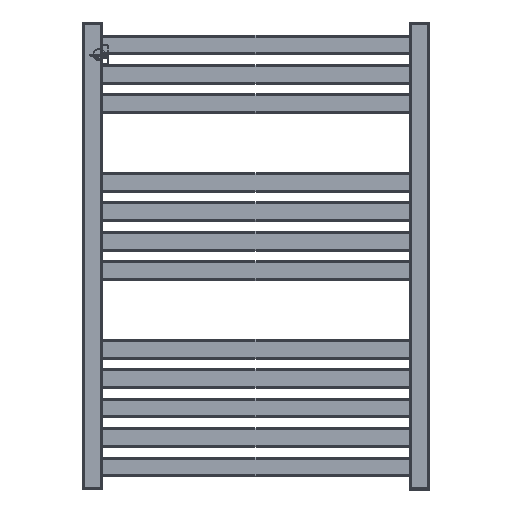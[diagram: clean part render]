
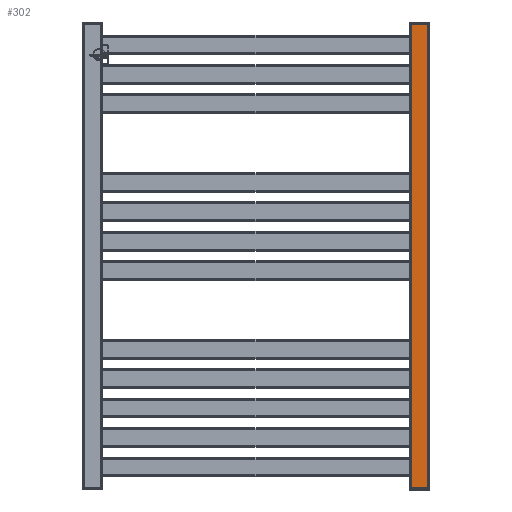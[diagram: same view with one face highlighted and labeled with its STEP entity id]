
A CAD part, front view. The second image highlights one B-rep face of the part: STEP entity #302.
In plain terms, the highlighted planar face has unit normal (0, -1, 0) as drawn and (-1, 0, 0) by its records, which use the part's own axes.
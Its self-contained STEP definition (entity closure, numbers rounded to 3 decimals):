
#302 = ADVANCED_FACE( '', ( #724 ), #725, .T. );
#724 = FACE_OUTER_BOUND( '', #1294, .T. );
#725 = PLANE( '', #1295 );
#1294 = EDGE_LOOP( '', ( #2181, #2182, #2183, #2184 ) );
#1295 = AXIS2_PLACEMENT_3D( '', #2185, #2186, #2187 );
#2181 = ORIENTED_EDGE( '', *, *, #3231, .T. );
#2182 = ORIENTED_EDGE( '', *, *, #3488, .T. );
#2183 = ORIENTED_EDGE( '', *, *, #3482, .F. );
#2184 = ORIENTED_EDGE( '', *, *, #3379, .T. );
#2185 = CARTESIAN_POINT( '', ( -15., 711., 15. ) );
#2186 = DIRECTION( '', ( -1., 0., 0. ) );
#2187 = DIRECTION( '', ( 0., 0., 1. ) );
#3231 = EDGE_CURVE( '', #3840, #3838, #3841, .T. );
#3379 = EDGE_CURVE( '', #4092, #3840, #4093, .F. );
#3482 = EDGE_CURVE( '', #4092, #4266, #4267, .T. );
#3488 = EDGE_CURVE( '', #3838, #4266, #4274, .T. );
#3838 = VERTEX_POINT( '', #4727 );
#3840 = VERTEX_POINT( '', #4729 );
#3841 = LINE( '', #4730, #4731 );
#4092 = VERTEX_POINT( '', #5058 );
#4093 = LINE( '', #5059, #5060 );
#4266 = VERTEX_POINT( '', #5288 );
#4267 = LINE( '', #5289, #5290 );
#4274 = LINE( '', #5299, #5300 );
#4727 = CARTESIAN_POINT( '', ( -15., 711., -12. ) );
#4729 = CARTESIAN_POINT( '', ( -15., 711., 12. ) );
#4730 = CARTESIAN_POINT( '', ( -15., 711., 15. ) );
#4731 = VECTOR( '', #5868, 1000. );
#5058 = CARTESIAN_POINT( '', ( -15., 0., 12. ) );
#5059 = CARTESIAN_POINT( '', ( -15., 711., 12. ) );
#5060 = VECTOR( '', #6059, 1000. );
#5288 = CARTESIAN_POINT( '', ( -15., 0., -12. ) );
#5289 = CARTESIAN_POINT( '', ( -15., 0., 15. ) );
#5290 = VECTOR( '', #6238, 1000. );
#5299 = CARTESIAN_POINT( '', ( -15., 711., -12. ) );
#5300 = VECTOR( '', #6244, 1000. );
#5868 = DIRECTION( '', ( 0., 0., -1. ) );
#6059 = DIRECTION( '', ( 0., -1., 0. ) );
#6238 = DIRECTION( '', ( 0., 0., -1. ) );
#6244 = DIRECTION( '', ( 0., -1., 0. ) );
